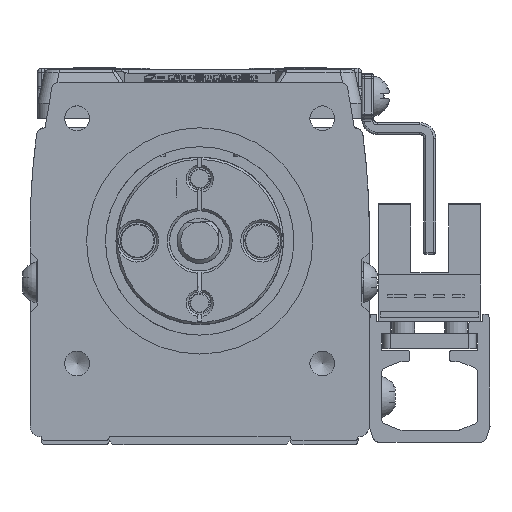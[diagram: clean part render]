
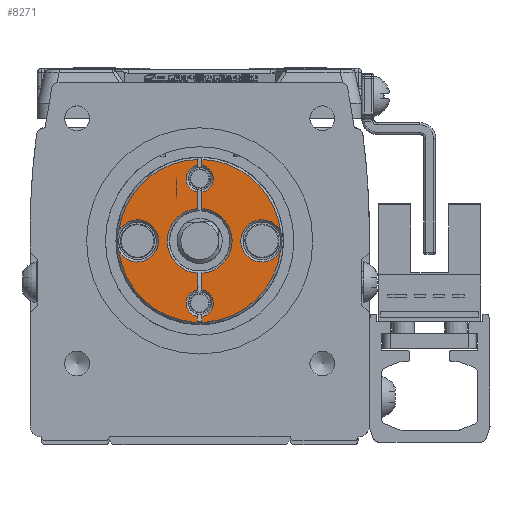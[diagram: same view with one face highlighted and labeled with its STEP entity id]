
A CAD part, left-side view. The second image highlights one B-rep face of the part: STEP entity #8271.
In plain terms, the highlighted planar face has unit normal (-1, 0, 0) as drawn and (1, 0, 0) by its records, which use the part's own axes.
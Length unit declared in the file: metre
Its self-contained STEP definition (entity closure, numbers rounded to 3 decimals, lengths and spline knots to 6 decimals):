
#8271=ADVANCED_FACE('',(#16089),#16090,.F.);
#16089=FACE_OUTER_BOUND('',#27031,.T.);
#16090=PLANE('',#27032);
#27031=EDGE_LOOP('',(#45547,#45548,#45549,#45550,#45551,#45552,#45553,#45554,#45555,#45556,#45557,#45558,#45559,#45560,#45561,#45562,#45563,#45564,#45565,#45566));
#27032=AXIS2_PLACEMENT_3D('',#45567,#45568,#45569);
#45547=ORIENTED_EDGE('',*,*,#52157,.F.);
#45548=ORIENTED_EDGE('',*,*,#54083,.T.);
#45549=ORIENTED_EDGE('',*,*,#49975,.F.);
#45550=ORIENTED_EDGE('',*,*,#47856,.F.);
#45551=ORIENTED_EDGE('',*,*,#49412,.T.);
#45552=ORIENTED_EDGE('',*,*,#53478,.T.);
#45553=ORIENTED_EDGE('',*,*,#53151,.F.);
#45554=ORIENTED_EDGE('',*,*,#53049,.F.);
#45555=ORIENTED_EDGE('',*,*,#47601,.F.);
#45556=ORIENTED_EDGE('',*,*,#54468,.T.);
#45557=ORIENTED_EDGE('',*,*,#51722,.F.);
#45558=ORIENTED_EDGE('',*,*,#53938,.F.);
#45559=ORIENTED_EDGE('',*,*,#49654,.F.);
#45560=ORIENTED_EDGE('',*,*,#52016,.F.);
#45561=ORIENTED_EDGE('',*,*,#49795,.F.);
#45562=ORIENTED_EDGE('',*,*,#52015,.F.);
#45563=ORIENTED_EDGE('',*,*,#49353,.F.);
#45564=ORIENTED_EDGE('',*,*,#52014,.F.);
#45565=ORIENTED_EDGE('',*,*,#52803,.T.);
#45566=ORIENTED_EDGE('',*,*,#53430,.F.);
#45567=CARTESIAN_POINT('',(0.0,0.0,0.));
#45568=DIRECTION('',(-1.0,0.,0.0));
#45569=DIRECTION('',(0.,-1.0,0.0));
#47601=EDGE_CURVE('',#55459,#55461,#55462,.T.);
#47856=EDGE_CURVE('',#55923,#55924,#55925,.T.);
#49353=EDGE_CURVE('',#58430,#58431,#58432,.T.);
#49412=EDGE_CURVE('',#55923,#58524,#58526,.F.);
#49654=EDGE_CURVE('',#58888,#58890,#58891,.T.);
#49795=EDGE_CURVE('',#59117,#59118,#59119,.T.);
#49975=EDGE_CURVE('',#55924,#59398,#59399,.F.);
#51722=EDGE_CURVE('',#61985,#61986,#61987,.F.);
#52014=EDGE_CURVE('',#62405,#58430,#62407,.T.);
#52015=EDGE_CURVE('',#58431,#59117,#62408,.T.);
#52016=EDGE_CURVE('',#59118,#58888,#62409,.T.);
#52157=EDGE_CURVE('',#62609,#62611,#62612,.F.);
#52803=EDGE_CURVE('',#62405,#63473,#63475,.F.);
#53049=EDGE_CURVE('',#55461,#63788,#63789,.T.);
#53151=EDGE_CURVE('',#63788,#63916,#63917,.F.);
#53430=EDGE_CURVE('',#62611,#63473,#64284,.T.);
#53478=EDGE_CURVE('',#58524,#63916,#64341,.T.);
#53938=EDGE_CURVE('',#58890,#61985,#64929,.T.);
#54083=EDGE_CURVE('',#62609,#59398,#65099,.T.);
#54468=EDGE_CURVE('',#55459,#61986,#65551,.T.);
#55459=VERTEX_POINT('',#67025);
#55461=VERTEX_POINT('',#67030);
#55462=LINE('',#67031,#67032);
#55923=VERTEX_POINT('',#67757);
#55924=VERTEX_POINT('',#67758);
#55925=CIRCLE('',#67759,0.0018);
#58430=VERTEX_POINT('',#71453);
#58431=VERTEX_POINT('',#71454);
#58432=CIRCLE('',#71455,0.0028);
#58524=VERTEX_POINT('',#71592);
#58526=LINE('',#71594,#71595);
#58888=VERTEX_POINT('',#72081);
#58890=VERTEX_POINT('',#72084);
#58891=LINE('',#72085,#72086);
#59117=VERTEX_POINT('',#72395);
#59118=VERTEX_POINT('',#72396);
#59119=CIRCLE('',#72397,0.0028);
#59398=VERTEX_POINT('',#72942);
#59399=LINE('',#72943,#72944);
#61985=VERTEX_POINT('',#76819);
#61986=VERTEX_POINT('',#76820);
#61987=LINE('',#76821,#76822);
#62405=VERTEX_POINT('',#77481);
#62407=CIRCLE('',#77486,0.0108);
#62408=CIRCLE('',#77487,0.0108);
#62409=CIRCLE('',#77488,0.0108);
#62609=VERTEX_POINT('',#77918);
#62611=VERTEX_POINT('',#77923);
#62612=LINE('',#77924,#77925);
#63473=VERTEX_POINT('',#79159);
#63475=LINE('',#79164,#79165);
#63788=VERTEX_POINT('',#79607);
#63789=CIRCLE('',#79608,0.0018);
#63916=VERTEX_POINT('',#79787);
#63917=LINE('',#79788,#79789);
#64284=CIRCLE('',#80290,0.0018);
#64341=LINE('',#80446,#80447);
#64929=CIRCLE('',#81271,0.0018);
#65099=CIRCLE('',#81504,0.0043);
#65551=CIRCLE('',#82088,0.0043);
#67025=CARTESIAN_POINT('',(0.,-0.00429,0.0003));
#67030=CARTESIAN_POINT('',(0.,-0.006475,0.0003));
#67031=CARTESIAN_POINT('',(0.0,0.0,0.0003));
#67032=VECTOR('',#83138,1.0);
#67757=CARTESIAN_POINT('',(0.,-0.010025,-0.0003));
#67758=CARTESIAN_POINT('',(0.,-0.006475,-0.0003));
#67759=AXIS2_PLACEMENT_3D('',#83505,#83506,#83507);
#71453=CARTESIAN_POINT('',(0.,0.001321,-0.010719));
#71454=CARTESIAN_POINT('',(0.,-0.001321,-0.010719));
#71455=AXIS2_PLACEMENT_3D('',#85466,#85467,#85468);
#71592=CARTESIAN_POINT('',(0.,-0.010642,-0.0003));
#71594=CARTESIAN_POINT('',(0.0,0.0025,-0.0003));
#71595=VECTOR('',#85533,1.0);
#72081=CARTESIAN_POINT('',(0.,0.010796,0.0003));
#72084=CARTESIAN_POINT('',(0.,0.010025,0.0003));
#72085=CARTESIAN_POINT('',(0.0,0.0,0.0003));
#72086=VECTOR('',#85816,1.0);
#72395=CARTESIAN_POINT('',(0.,-0.001321,0.010719));
#72396=CARTESIAN_POINT('',(0.,0.001321,0.010719));
#72397=AXIS2_PLACEMENT_3D('',#86004,#86005,#86006);
#72942=CARTESIAN_POINT('',(0.,-0.00429,-0.0003));
#72943=CARTESIAN_POINT('',(0.0,0.0,-0.0003));
#72944=VECTOR('',#86226,1.0);
#76819=CARTESIAN_POINT('',(0.0,0.006475,0.0003));
#76820=CARTESIAN_POINT('',(0.0,0.00429,0.0003));
#76821=CARTESIAN_POINT('',(0.0,0.0025,0.0003));
#76822=VECTOR('',#88235,1.0);
#77481=CARTESIAN_POINT('',(0.,0.010796,-0.0003));
#77486=AXIS2_PLACEMENT_3D('',#88575,#88576,#88577);
#77487=AXIS2_PLACEMENT_3D('',#88578,#88579,#88580);
#77488=AXIS2_PLACEMENT_3D('',#88581,#88582,#88583);
#77918=CARTESIAN_POINT('',(0.,0.00429,-0.0003));
#77923=CARTESIAN_POINT('',(0.,0.006475,-0.0003));
#77924=CARTESIAN_POINT('',(0.0,0.0,-0.0003));
#77925=VECTOR('',#88735,1.0);
#79159=CARTESIAN_POINT('',(0.,0.010025,-0.0003));
#79164=CARTESIAN_POINT('',(0.0,0.0025,-0.0003));
#79165=VECTOR('',#89431,1.0);
#79607=CARTESIAN_POINT('',(0.,-0.010025,0.0003));
#79608=AXIS2_PLACEMENT_3D('',#89650,#89651,#89652);
#79787=CARTESIAN_POINT('',(0.,-0.010642,0.0003));
#79788=CARTESIAN_POINT('',(0.0,0.0025,0.0003));
#79789=VECTOR('',#89748,1.0);
#80290=AXIS2_PLACEMENT_3D('',#90021,#90022,#90023);
#80446=CARTESIAN_POINT('',(0.,-0.010642,0.0003));
#80447=VECTOR('',#90072,1.0);
#81271=AXIS2_PLACEMENT_3D('',#90493,#90494,#90495);
#81504=AXIS2_PLACEMENT_3D('',#90618,#90619,#90620);
#82088=AXIS2_PLACEMENT_3D('',#90929,#90930,#90931);
#83138=DIRECTION('',(0.,-1.0,0.0));
#83505=CARTESIAN_POINT('',(0.0,-0.00825,0.));
#83506=DIRECTION('',(1.0,0.0,0.0));
#83507=DIRECTION('',(0.0,0.0,-1.0));
#85466=CARTESIAN_POINT('',(0.,0.,-0.00825));
#85467=DIRECTION('',(1.0,0.,0.0));
#85468=DIRECTION('',(0.,1.0,0.0));
#85533=DIRECTION('',(0.0,1.0,0.0));
#85816=DIRECTION('',(0.,-1.0,0.0));
#86004=CARTESIAN_POINT('',(0.0,0.,0.00825));
#86005=DIRECTION('',(1.0,0.,0.0));
#86006=DIRECTION('',(0.,1.0,0.0));
#86226=DIRECTION('',(0.,-1.0,0.0));
#88235=DIRECTION('',(0.0,1.0,0.0));
#88575=CARTESIAN_POINT('',(0.,0.0,0.));
#88576=DIRECTION('',(-1.0,0.0,0.0));
#88577=DIRECTION('',(0.0,0.0,1.0));
#88578=CARTESIAN_POINT('',(0.,0.0,0.));
#88579=DIRECTION('',(-1.0,0.0,0.0));
#88580=DIRECTION('',(0.0,0.0,1.0));
#88581=CARTESIAN_POINT('',(0.,0.0,0.));
#88582=DIRECTION('',(-1.0,0.0,0.0));
#88583=DIRECTION('',(0.0,0.0,1.0));
#88735=DIRECTION('',(0.,-1.0,0.0));
#89431=DIRECTION('',(0.0,1.0,0.0));
#89650=CARTESIAN_POINT('',(0.0,-0.00825,0.));
#89651=DIRECTION('',(1.0,0.0,0.0));
#89652=DIRECTION('',(0.0,0.0,-1.0));
#89748=DIRECTION('',(0.0,1.0,0.0));
#90021=CARTESIAN_POINT('',(0.0,0.00825,0.));
#90022=DIRECTION('',(1.0,0.0,0.0));
#90023=DIRECTION('',(0.0,0.0,-1.0));
#90072=DIRECTION('',(0.0,0.0,1.0));
#90493=CARTESIAN_POINT('',(0.0,0.00825,0.));
#90494=DIRECTION('',(1.0,0.0,0.0));
#90495=DIRECTION('',(0.0,0.0,-1.0));
#90618=CARTESIAN_POINT('',(0.,0.,0.));
#90619=DIRECTION('',(-1.0,0.,0.0));
#90620=DIRECTION('',(0.,-1.0,0.0));
#90929=CARTESIAN_POINT('',(0.,0.,0.));
#90930=DIRECTION('',(-1.0,0.,0.0));
#90931=DIRECTION('',(0.,-1.0,0.0));
